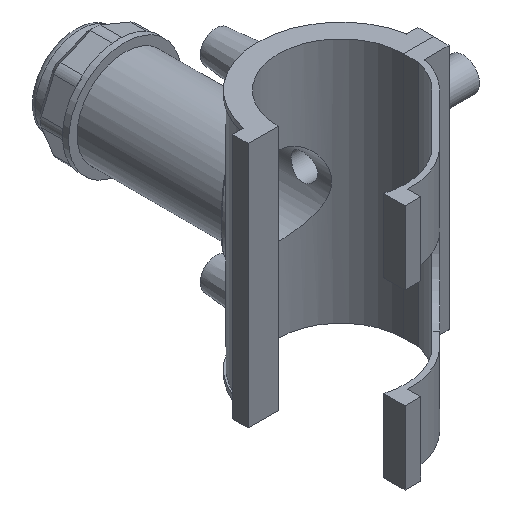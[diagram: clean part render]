
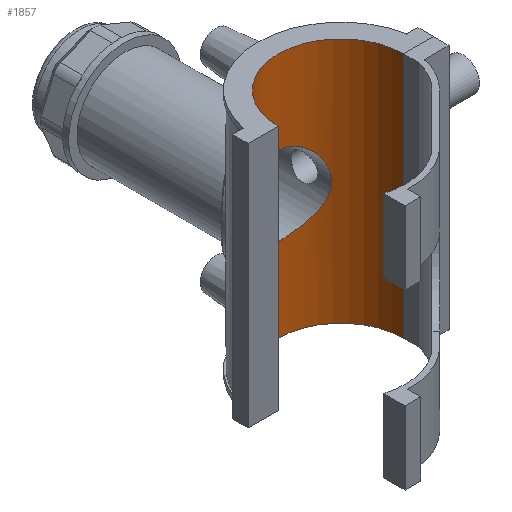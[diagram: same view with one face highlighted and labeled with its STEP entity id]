
A CAD part, isometric view. The second image highlights one B-rep face of the part: STEP entity #1857.
In plain terms, the highlighted cylindrical face has radius 30.05 mm (diameter 60.1 mm), a partial arc.
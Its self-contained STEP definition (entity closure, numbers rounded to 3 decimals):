
#111=FACE_BOUND('',#308,.T.);
#190=FACE_OUTER_BOUND('',#307,.T.);
#307=EDGE_LOOP('',(#1600,#1601,#1602,#1603));
#308=EDGE_LOOP('',(#1604,#1605));
#336=B_SPLINE_CURVE_WITH_KNOTS('',3,(#2664,#2665,#2666,#2667,#2668,#2669,
#2670,#2671,#2672,#2673,#2674,#2675,#2676,#2677,#2678,#2679,#2680,#2681,
#2682,#2683,#2684,#2685,#2686,#2687,#2688,#2689,#2690,#2691,#2692,#2693,
#2694,#2695,#2696,#2697,#2698,#2699,#2700,#2701,#2702,#2703,#2704,#2705,
#2706,#2707,#2708,#2709,#2710,#2711,#2712,#2713),.UNSPECIFIED.,.F.,.F.,
(4,2,2,2,2,2,2,2,2,2,2,2,2,2,2,2,2,2,2,2,2,2,2,2,4),(0.,0.371,
0.742,1.113,1.483,1.851,2.219,
2.587,2.955,3.323,3.69,4.058,
4.426,4.797,5.168,5.539,5.909,
6.28,6.651,7.022,7.393,7.761,
8.128,8.496,8.864),.UNSPECIFIED.);
#337=B_SPLINE_CURVE_WITH_KNOTS('',3,(#2714,#2715,#2716,#2717,#2718,#2719,
#2720,#2721,#2722,#2723,#2724,#2725,#2726,#2727,#2728,#2729,#2730,#2731),
 .UNSPECIFIED.,.F.,.F.,(4,2,2,2,2,2,2,2,4),(8.864,9.232,
9.6,9.968,10.335,10.706,11.077,
11.448,11.819),.UNSPECIFIED.);
#455=LINE('',#3593,#612);
#456=LINE('',#3597,#613);
#612=VECTOR('',#2498,10.);
#613=VECTOR('',#2501,10.);
#738=CIRCLE('',#2056,30.05);
#739=CIRCLE('',#2058,30.05);
#758=VERTEX_POINT('',#2661);
#759=VERTEX_POINT('',#2663);
#884=VERTEX_POINT('',#3587);
#886=VERTEX_POINT('',#3591);
#887=VERTEX_POINT('',#3595);
#888=VERTEX_POINT('',#3596);
#937=EDGE_CURVE('',#759,#758,#336,.T.);
#938=EDGE_CURVE('',#758,#759,#337,.T.);
#1128=EDGE_CURVE('',#884,#886,#455,.T.);
#1129=EDGE_CURVE('',#887,#888,#456,.T.);
#1135=EDGE_CURVE('',#884,#888,#738,.T.);
#1136=EDGE_CURVE('',#887,#886,#739,.T.);
#1600=ORIENTED_EDGE('',*,*,#1129,.T.);
#1601=ORIENTED_EDGE('',*,*,#1135,.F.);
#1602=ORIENTED_EDGE('',*,*,#1128,.T.);
#1603=ORIENTED_EDGE('',*,*,#1136,.F.);
#1604=ORIENTED_EDGE('',*,*,#937,.T.);
#1605=ORIENTED_EDGE('',*,*,#938,.T.);
#1771=CYLINDRICAL_SURFACE('',#2059,30.05);
#1857=ADVANCED_FACE('',(#190,#111),#1771,.F.);
#2056=AXIS2_PLACEMENT_3D('',#3606,#2509,#2510);
#2058=AXIS2_PLACEMENT_3D('',#3608,#2513,#2514);
#2059=AXIS2_PLACEMENT_3D('',#3611,#2517,#2518);
#2498=DIRECTION('',(0.,0.,-1.));
#2501=DIRECTION('',(0.,0.,1.));
#2509=DIRECTION('center_axis',(0.,0.,-1.));
#2510=DIRECTION('ref_axis',(-1.,0.,0.));
#2513=DIRECTION('center_axis',(0.,0.,1.));
#2514=DIRECTION('ref_axis',(-1.,0.,0.));
#2517=DIRECTION('center_axis',(0.,0.,1.));
#2518=DIRECTION('ref_axis',(-1.,0.,0.));
#2661=CARTESIAN_POINT('',(0.,30.05,-18.932));
#2663=CARTESIAN_POINT('',(-18.932,23.337,0.));
#2664=CARTESIAN_POINT('Ctrl Pts',(-18.932,23.337,0.));
#2665=CARTESIAN_POINT('Ctrl Pts',(-18.932,23.337,1.236));
#2666=CARTESIAN_POINT('Ctrl Pts',(-18.809,23.438,2.496));
#2667=CARTESIAN_POINT('Ctrl Pts',(-18.311,23.829,4.972));
#2668=CARTESIAN_POINT('Ctrl Pts',(-17.936,24.118,6.188));
#2669=CARTESIAN_POINT('Ctrl Pts',(-16.962,24.813,8.502));
#2670=CARTESIAN_POINT('Ctrl Pts',(-16.362,25.218,9.602));
#2671=CARTESIAN_POINT('Ctrl Pts',(-14.987,26.059,11.632));
#2672=CARTESIAN_POINT('Ctrl Pts',(-14.211,26.493,12.562));
#2673=CARTESIAN_POINT('Ctrl Pts',(-12.569,27.31,14.204));
#2674=CARTESIAN_POINT('Ctrl Pts',(-11.642,27.724,14.979));
#2675=CARTESIAN_POINT('Ctrl Pts',(-9.611,28.492,16.356));
#2676=CARTESIAN_POINT('Ctrl Pts',(-8.507,28.846,16.96));
#2677=CARTESIAN_POINT('Ctrl Pts',(-6.183,29.431,17.938));
#2678=CARTESIAN_POINT('Ctrl Pts',(-4.961,29.664,18.313));
#2679=CARTESIAN_POINT('Ctrl Pts',(-2.483,29.973,18.81));
#2680=CARTESIAN_POINT('Ctrl Pts',(-1.226,30.05,18.932));
#2681=CARTESIAN_POINT('Ctrl Pts',(1.226,30.05,18.932));
#2682=CARTESIAN_POINT('Ctrl Pts',(2.483,29.973,18.81));
#2683=CARTESIAN_POINT('Ctrl Pts',(4.961,29.664,18.313));
#2684=CARTESIAN_POINT('Ctrl Pts',(6.183,29.431,17.938));
#2685=CARTESIAN_POINT('Ctrl Pts',(8.507,28.846,16.96));
#2686=CARTESIAN_POINT('Ctrl Pts',(9.611,28.492,16.356));
#2687=CARTESIAN_POINT('Ctrl Pts',(11.642,27.724,14.979));
#2688=CARTESIAN_POINT('Ctrl Pts',(12.569,27.31,14.204));
#2689=CARTESIAN_POINT('Ctrl Pts',(14.211,26.493,12.562));
#2690=CARTESIAN_POINT('Ctrl Pts',(14.987,26.059,11.632));
#2691=CARTESIAN_POINT('Ctrl Pts',(16.362,25.218,9.602));
#2692=CARTESIAN_POINT('Ctrl Pts',(16.962,24.813,8.502));
#2693=CARTESIAN_POINT('Ctrl Pts',(17.936,24.118,6.188));
#2694=CARTESIAN_POINT('Ctrl Pts',(18.311,23.829,4.972));
#2695=CARTESIAN_POINT('Ctrl Pts',(18.809,23.438,2.496));
#2696=CARTESIAN_POINT('Ctrl Pts',(18.932,23.337,1.236));
#2697=CARTESIAN_POINT('Ctrl Pts',(18.932,23.337,-1.236));
#2698=CARTESIAN_POINT('Ctrl Pts',(18.809,23.438,-2.496));
#2699=CARTESIAN_POINT('Ctrl Pts',(18.311,23.829,-4.972));
#2700=CARTESIAN_POINT('Ctrl Pts',(17.936,24.118,-6.188));
#2701=CARTESIAN_POINT('Ctrl Pts',(16.962,24.813,-8.502));
#2702=CARTESIAN_POINT('Ctrl Pts',(16.362,25.218,-9.602));
#2703=CARTESIAN_POINT('Ctrl Pts',(14.987,26.059,-11.632));
#2704=CARTESIAN_POINT('Ctrl Pts',(14.211,26.493,-12.562));
#2705=CARTESIAN_POINT('Ctrl Pts',(12.569,27.31,-14.204));
#2706=CARTESIAN_POINT('Ctrl Pts',(11.642,27.724,-14.979));
#2707=CARTESIAN_POINT('Ctrl Pts',(9.611,28.492,-16.356));
#2708=CARTESIAN_POINT('Ctrl Pts',(8.507,28.846,-16.96));
#2709=CARTESIAN_POINT('Ctrl Pts',(6.183,29.431,-17.938));
#2710=CARTESIAN_POINT('Ctrl Pts',(4.961,29.664,-18.313));
#2711=CARTESIAN_POINT('Ctrl Pts',(2.483,29.973,-18.81));
#2712=CARTESIAN_POINT('Ctrl Pts',(1.226,30.05,-18.932));
#2713=CARTESIAN_POINT('Ctrl Pts',(0.,30.05,-18.932));
#2714=CARTESIAN_POINT('Ctrl Pts',(0.,30.05,-18.932));
#2715=CARTESIAN_POINT('Ctrl Pts',(-1.226,30.05,-18.932));
#2716=CARTESIAN_POINT('Ctrl Pts',(-2.483,29.973,-18.81));
#2717=CARTESIAN_POINT('Ctrl Pts',(-4.961,29.664,-18.313));
#2718=CARTESIAN_POINT('Ctrl Pts',(-6.183,29.431,-17.938));
#2719=CARTESIAN_POINT('Ctrl Pts',(-8.507,28.846,-16.96));
#2720=CARTESIAN_POINT('Ctrl Pts',(-9.611,28.492,-16.356));
#2721=CARTESIAN_POINT('Ctrl Pts',(-11.642,27.724,-14.979));
#2722=CARTESIAN_POINT('Ctrl Pts',(-12.569,27.31,-14.204));
#2723=CARTESIAN_POINT('Ctrl Pts',(-14.211,26.493,-12.562));
#2724=CARTESIAN_POINT('Ctrl Pts',(-14.987,26.059,-11.632));
#2725=CARTESIAN_POINT('Ctrl Pts',(-16.362,25.218,-9.602));
#2726=CARTESIAN_POINT('Ctrl Pts',(-16.962,24.813,-8.502));
#2727=CARTESIAN_POINT('Ctrl Pts',(-17.936,24.118,-6.188));
#2728=CARTESIAN_POINT('Ctrl Pts',(-18.311,23.829,-4.972));
#2729=CARTESIAN_POINT('Ctrl Pts',(-18.809,23.438,-2.496));
#2730=CARTESIAN_POINT('Ctrl Pts',(-18.932,23.337,-1.236));
#2731=CARTESIAN_POINT('Ctrl Pts',(-18.932,23.337,0.));
#3587=CARTESIAN_POINT('',(-30.05,0.05,59.055));
#3591=CARTESIAN_POINT('',(-30.05,0.05,-59.055));
#3593=CARTESIAN_POINT('',(-30.05,0.05,0.));
#3595=CARTESIAN_POINT('',(30.05,0.05,-59.055));
#3596=CARTESIAN_POINT('',(30.05,0.05,59.055));
#3597=CARTESIAN_POINT('',(30.05,0.05,0.));
#3606=CARTESIAN_POINT('Origin',(0.,0.,59.055));
#3608=CARTESIAN_POINT('Origin',(0.,0.,-59.055));
#3611=CARTESIAN_POINT('Origin',(0.,0.,0.));
